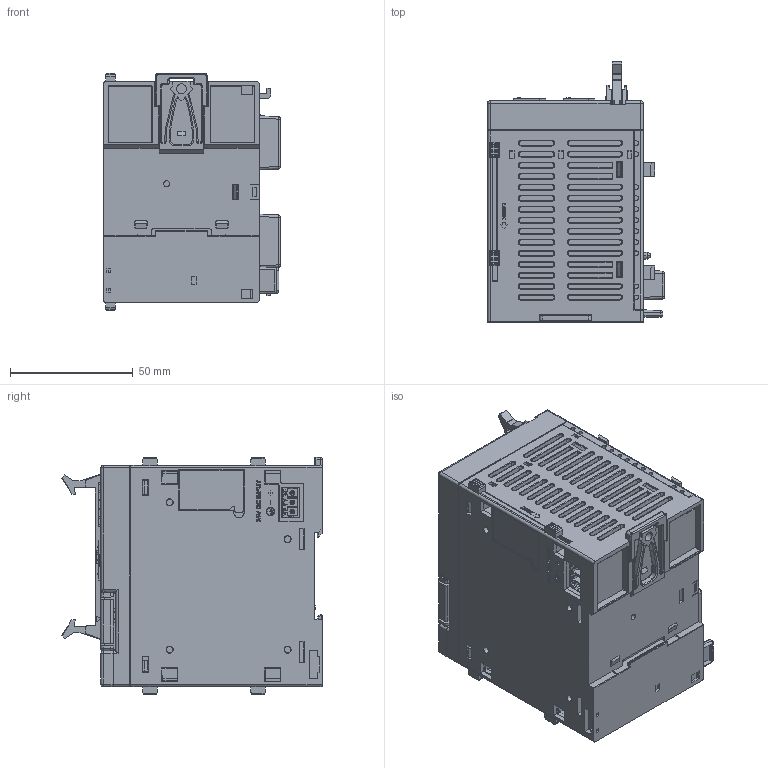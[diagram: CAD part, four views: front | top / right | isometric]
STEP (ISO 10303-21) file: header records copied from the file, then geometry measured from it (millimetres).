
FILE_DESCRIPTION((''),'2;1');
FILE_NAME('XCPU-MAIN-BODY-DOWN-COVER','2022-06-21T23:25:23',('Jacky Chang'),(''),'CREO PARAMETRIC BY PTC INC, 2021284','CREO PARAMETRIC BY PTC INC, 2021284','');
FILE_SCHEMA(('CONFIG_CONTROL_DESIGN'));
Products named in the file (1): XCPU-MAIN-BODY-DOWN-COVER
Bounding box: 71.9 x 105.83 x 96.6 mm (x, y, z)
Volume: 484592.3 mm3; surface area: 75883.9 mm2
Topology: 4 solids, 13 shells, 6114 faces, 16500 edges, 10540 vertices
Faces by surface type: plane 4387, cylinder 1108, torus 197, cone 170, extrusion 135, bspline 66, sphere 51
Entity records: 193959 total; most frequent: CARTESIAN_POINT 40071, ORIENTED_EDGE 32936, DIRECTION 30109, EDGE_CURVE 16468, VECTOR 13337, LINE 13202, VERTEX_POINT 10541, AXIS2_PLACEMENT_3D 8386
